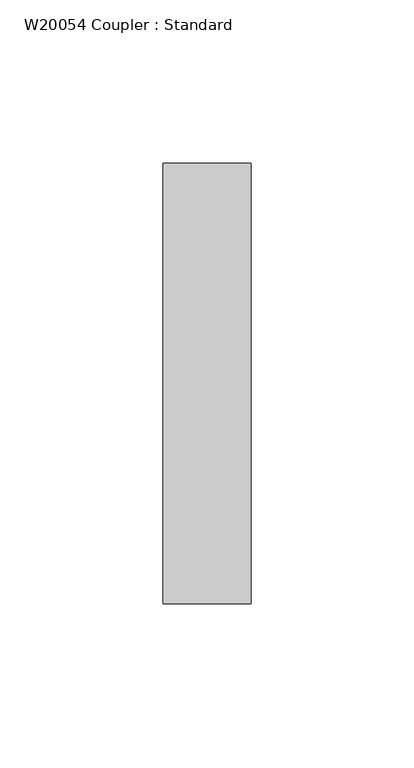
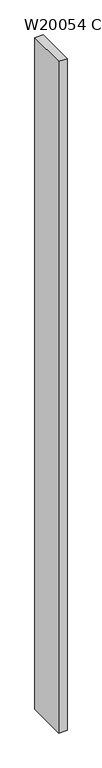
"""IFC4 building model written with IfcOpenShell, lengths in millimetres: proxy geometry, W20054 Coupler : Standard."""

from ifc_helpers import new_model, si_unit, frame, origin, place, context, project, spatial, polyline, outline, extrude, source, transform, mapped, element, save


def w20054_coupler_standard_0fb11666(model_context):
    return source(origin(), model_context, "Body", "SweptSolid", [
        extrude(outline(polyline([(138.5, 28.0), (138.5, -107.0), (111.5, -107.0), (111.5, 28.0), (138.5, 28.0)])), frame((0.0, 0.0, 400.0), z_axis=(0.0, 0.0, 1.0), x_axis=(1.0, 0.0, 0.0)), (0.0, 0.0, 1.0), 2319.6158349),
    ])


if __name__ == "__main__":
    model = new_model("IFC4")
    model_context = context("Model", 3, world=origin())
    ifc_project = project(units=[si_unit("LENGTHUNIT", "METRE", prefix="MILLI")], contexts=[model_context])
    site = spatial("IfcSite", under=ifc_project)
    building = spatial("IfcBuilding", under=site)
    placement = place(None, origin())
    w20054_coupler_standard_shape = w20054_coupler_standard_0fb11666(model_context)
    element("IfcBuildingElementProxy", 1, Name="W20054 Coupler : Standard", ObjectType="W20054 Coupler : Standard", at=placement, inside=building, context=model_context, shape_type="MappedRepresentation", body=[
        mapped(w20054_coupler_standard_shape, transform((0.0, 0.0, 0.0), x_axis=(1.0, 0.0, 0.0), y_axis=(0.0, 1.0, 0.0), z_axis=(0.0, 0.0, 1.0))),
    ])
    save(model, "model.ifc")
